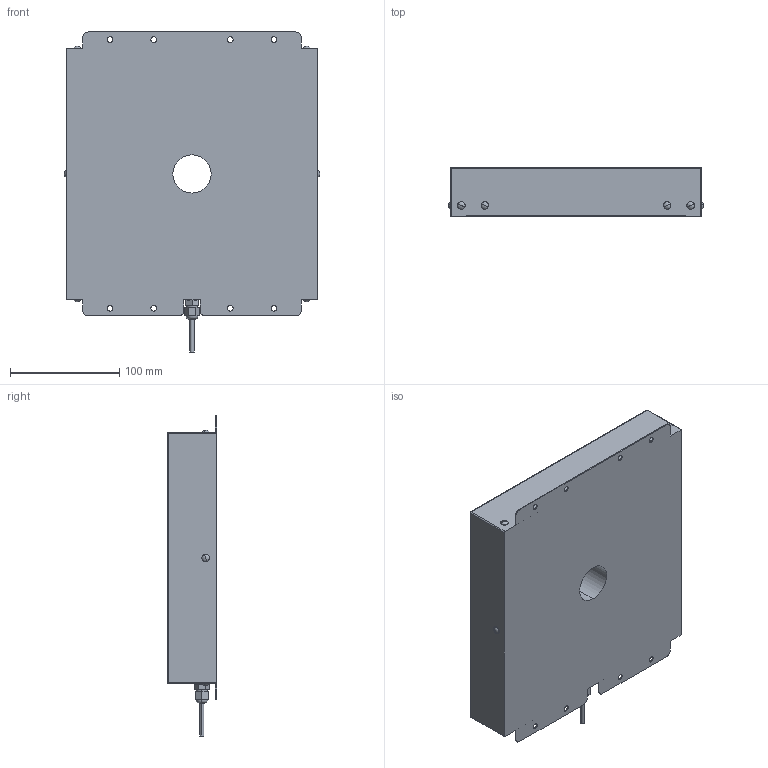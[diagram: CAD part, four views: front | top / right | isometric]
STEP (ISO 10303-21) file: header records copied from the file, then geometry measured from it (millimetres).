
FILE_DESCRIPTION (( 'STEP AP203' ), '1' );
FILE_NAME ('HDSBPA-200x200_-24-35D.STEP', '2023-04-18T06:01:01', ( '' ), ( '' ), 'SwSTEP 2.0', 'SolidWorks 2022', '' );
FILE_SCHEMA (( 'CONFIG_CONTROL_DESIGN' ));
Length unit declared in the file: millimetre
Products named in the file (1): HDSBPA-200x200_-24-35D
Bounding box: 233.8 x 45 x 293 mm (x, y, z)
Volume: 2306373.3 mm3; surface area: 163088.9 mm2
Topology: 1 solids, 1 shells, 148 faces, 400 edges, 244 vertices
Faces by surface type: cylinder 66, plane 52, sphere 28, torus 2
Entity records: 4511 total; most frequent: DIRECTION 844, CARTESIAN_POINT 741, ORIENTED_EDGE 720, EDGE_CURVE 360, AXIS2_PLACEMENT_3D 335, VERTEX_POINT 232, CIRCLE 186, EDGE_LOOP 184
